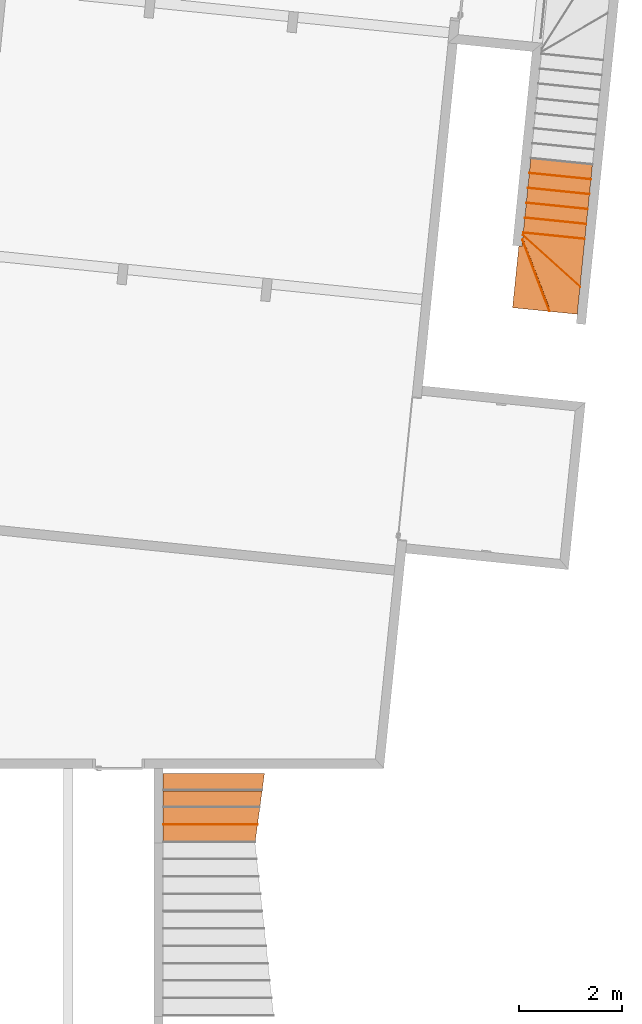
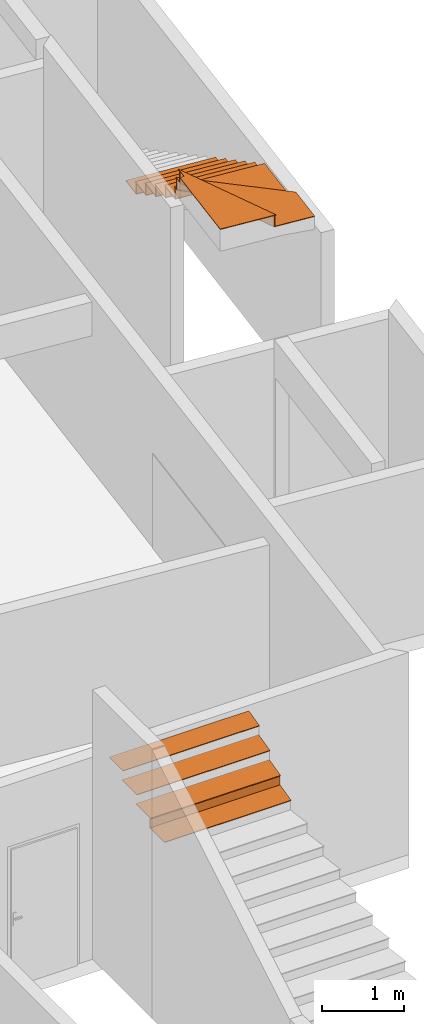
# One storey, part 40 of 41: 20 proxies, 2 elements without a shape of their own.
"""IFC2X3 building model written with IfcOpenShell, lengths in millimetres."""

from ifc_helpers import new_model, entity, si_unit, converted_unit, derived_unit, money_unit, direction, frame, origin_with_axes, place, context, subcontext, project, spatial, faceted_brep, material, type_object, element, aggregate, save


model = new_model("IFC2X3")

# Units and contexts
model_context = context("Model", 3, precision=0.01, world=origin_with_axes(), true_north=direction((0.0, 1.0)))
body_context = subcontext(model_context, "Body", "Model", "MODEL_VIEW")
ifc_project = project(units=[si_unit("LENGTHUNIT", "METRE", prefix="MILLI"), si_unit("AREAUNIT", "SQUARE_METRE"), si_unit("VOLUMEUNIT", "CUBIC_METRE"), converted_unit("PLANEANGLEUNIT", "DEGREE", entity("IfcPlaneAngleMeasure", 0.0174532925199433), si_unit("PLANEANGLEUNIT", "RADIAN"), dimensions=[0, 0, 0, 0, 0, 0, 0]), money_unit("USD"), converted_unit("TIMEUNIT", "Year", entity("IfcTimeMeasure", 31557600.0), si_unit("TIMEUNIT", "SECOND"), dimensions=[0, 0, 1, 0, 0, 0, 0]), si_unit("MASSUNIT", "GRAM", prefix="KILO"), si_unit("THERMODYNAMICTEMPERATUREUNIT", "DEGREE_CELSIUS"), si_unit("LUMINOUSINTENSITYUNIT", "LUMEN"), si_unit("ENERGYUNIT", "JOULE", prefix="MEGA"), derived_unit("THERMALCONDUCTANCEUNIT", [(si_unit("POWERUNIT", "WATT"), 1), (si_unit("LENGTHUNIT", "METRE"), -1), (si_unit("THERMODYNAMICTEMPERATUREUNIT", "KELVIN"), -1)]), derived_unit("SPECIFICHEATCAPACITYUNIT", [(si_unit("ENERGYUNIT", "JOULE"), 1), (si_unit("MASSUNIT", "GRAM", prefix="KILO"), -1), (si_unit("THERMODYNAMICTEMPERATUREUNIT", "KELVIN"), -1)]), derived_unit("MASSDENSITYUNIT", [(si_unit("MASSUNIT", "GRAM", prefix="KILO"), 1), (si_unit("VOLUMEUNIT", "CUBIC_METRE"), -1)])], contexts=[model_context])

# Site, building, storey
site_placement = place(None, origin_with_axes())
site = spatial("IfcSite", under=ifc_project, at=site_placement, Name="Site", CompositionType="ELEMENT")
building_placement = place(site_placement, origin_with_axes())
building = spatial("IfcBuilding", under=site, at=building_placement, Name="Bâtiment", CompositionType="ELEMENT")
storey_placement = place(building_placement, origin_with_axes())
storey = spatial("IfcBuildingStorey", under=building, at=storey_placement, Name="sousol", CompositionType="ELEMENT", Elevation=0.0)

# Stair, proxies
stair_1_placement = place(storey_placement, frame((2249189.521225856, -619471.9295065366, 0.0), z_axis=(0.0, 0.0, 1.0), x_axis=(0.9948759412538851, -0.1011032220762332, 0.0)))
stair_1 = element("IfcStair", 1, at=stair_1_placement, inside=storey, Name="ESC-014", ShapeType="NOTDEFINED")
ifc_material = material(Name="Lame d'air 275581351")
building_element_proxy_type = type_object("IfcBuildingElementProxyType", Name="IfcBuildingElementProxy", PredefinedType="NOTDEFINED")
proxy_1_placement = place(stair_1_placement, frame((457.016809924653, -1677.727353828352, 1990.0), z_axis=(0.0, 0.0, 1.0), x_axis=(-1.0, 0.0, 0.0)))
proxy_1 = element("IfcBuildingElementProxy", 2, at=proxy_1_placement, type_object=building_element_proxy_type, material=ifc_material, Name="C-MARCHE-235", context=body_context, shape_type="Brep", body=[
    faceted_brep([(334.9999999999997, 15.00000000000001, 0.0), (334.9999999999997, 25.00000000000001, 0.0), (-865.0000000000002, 24.99999999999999, 0.0), (-865.0000000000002, 14.99999999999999, 0.0), (334.9999999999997, 15.00000000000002, -156.6666666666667), (334.9999999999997, 25.00000000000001, -156.6666666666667), (-865.0000000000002, 25.0, -156.6666666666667), (-865.0000000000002, 15.0, -156.6666666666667)], [[[0, 1, 2, 3]], [[0, 4, 5, 1]], [[1, 5, 6, 2]], [[3, 2, 6, 7]], [[4, 0, 3, 7]], [[5, 4, 7, 6]]]),
])
proxy_2_placement = place(stair_1_placement, frame((457.016809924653, -2257.227331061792, 2323.333333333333), z_axis=(0.0, 0.0, 1.0), x_axis=(-1.0, 0.0, 0.0)))
proxy_2 = element("IfcBuildingElementProxy", 3, at=proxy_2_placement, type_object=building_element_proxy_type, material=ifc_material, Name="C-MARCHE-237", context=body_context, shape_type="Brep", body=[
    faceted_brep([(334.9999999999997, 15.00000000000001, 0.0), (334.9999999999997, 25.00000000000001, 0.0), (-865.0000000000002, 24.99999999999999, 0.0), (-865.0000000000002, 14.99999999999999, 0.0), (334.9999999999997, 15.00000000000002, -156.6666666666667), (334.9999999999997, 25.00000000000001, -156.6666666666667), (-865.0000000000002, 25.0, -156.6666666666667), (-865.0000000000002, 15.0, -156.6666666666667)], [[[0, 1, 2, 3]], [[0, 4, 5, 1]], [[1, 5, 6, 2]], [[3, 2, 6, 7]], [[4, 0, 3, 7]], [[5, 4, 7, 6]]]),
])
proxy_3_placement = place(stair_1_placement, frame((457.0168099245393, -1967.477342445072, 2156.666666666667), z_axis=(0.0, 0.0, 1.0), x_axis=(-1.0, 0.0, 0.0)))
proxy_3 = element("IfcBuildingElementProxy", 4, at=proxy_3_placement, type_object=building_element_proxy_type, material=ifc_material, Name="C-MARCHE-236", context=body_context, shape_type="Brep", body=[
    faceted_brep([(334.9999999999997, 15.00000000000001, 0.0), (334.9999999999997, 25.00000000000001, 0.0), (-865.0000000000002, 24.99999999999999, 0.0), (-865.0000000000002, 14.99999999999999, 0.0), (334.9999999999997, 15.00000000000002, -156.6666666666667), (334.9999999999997, 25.00000000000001, -156.6666666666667), (-865.0000000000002, 25.0, -156.6666666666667), (-865.0000000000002, 15.0, -156.6666666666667)], [[[0, 1, 2, 3]], [[0, 4, 5, 1]], [[1, 5, 6, 2]], [[3, 2, 6, 7]], [[4, 0, 3, 7]], [[5, 4, 7, 6]]]),
])
proxy_4_placement = place(stair_1_placement, frame((457.016809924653, -2546.977319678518, 2490.0), z_axis=(0.0, 0.0, 1.0), x_axis=(-1.0, 0.0, 0.0)))
proxy_4 = element("IfcBuildingElementProxy", 5, at=proxy_4_placement, type_object=building_element_proxy_type, material=ifc_material, Name="C-MARCHE-238", context=body_context, shape_type="Brep", body=[
    faceted_brep([(334.9999999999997, 15.00000000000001, 0.0), (334.9999999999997, 25.00000000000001, 0.0), (-865.0000000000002, 24.99999999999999, 0.0), (-865.0000000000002, 14.99999999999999, 0.0), (334.9999999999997, 15.00000000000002, -156.6666666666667), (334.9999999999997, 25.00000000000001, -156.6666666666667), (-865.0000000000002, 25.0, -156.6666666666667), (-865.0000000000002, 15.0, -156.6666666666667)], [[[0, 1, 2, 3]], [[0, 4, 5, 1]], [[1, 5, 6, 2]], [[3, 2, 6, 7]], [[4, 0, 3, 7]], [[5, 4, 7, 6]]]),
])
proxy_5_placement = place(stair_1_placement, frame((457.016809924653, -2836.727308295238, 2656.666666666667), z_axis=(0.0, 0.0, 1.0), x_axis=(-1.0, 0.0, 0.0)))
proxy_5 = element("IfcBuildingElementProxy", 6, at=proxy_5_placement, type_object=building_element_proxy_type, material=ifc_material, Name="C-MARCHE-239", context=body_context, shape_type="Brep", body=[
    faceted_brep([(334.9999999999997, 15.00000000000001, 0.0), (334.9999999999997, 25.00000000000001, 0.0), (-865.0000000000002, 24.99999999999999, 0.0), (-865.0000000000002, 14.99999999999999, 0.0), (334.9999999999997, 15.00000000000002, -156.6666666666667), (334.9999999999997, 25.00000000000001, -156.6666666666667), (-865.0000000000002, 25.0, -156.6666666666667), (-865.0000000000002, 15.0, -156.6666666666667)], [[[0, 1, 2, 3]], [[0, 4, 5, 1]], [[1, 5, 6, 2]], [[3, 2, 6, 7]], [[4, 0, 3, 7]], [[5, 4, 7, 6]]]),
])
proxy_6_placement = place(stair_1_placement, frame((456.9821929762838, -3126.477131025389, 2823.333333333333), z_axis=(0.0, 0.0, 1.0), x_axis=(-0.8049352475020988, 0.5933626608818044, 0.0)))
proxy_6 = element("IfcBuildingElementProxy", 7, at=proxy_6_placement, type_object=building_element_proxy_type, material=ifc_material, Name="C-MARCHE-240", context=body_context, shape_type="Brep", body=[
    faceted_brep([(405.0822027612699, 15.00000000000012, 0.0), (397.7106450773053, 25.00000000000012, 0.0), (-1093.092501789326, 24.99999999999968, 0.0), (-1085.720944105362, 14.99999999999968, 0.0), (405.0822027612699, 15.00000000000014, -156.6666666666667), (397.7106450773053, 25.00000000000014, -156.6666666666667), (-1093.092501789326, 24.99999999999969, -156.6666666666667), (-1085.720944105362, 14.99999999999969, -156.6666666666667)], [[[0, 1, 2, 3]], [[0, 4, 5, 1]], [[1, 5, 6, 2]], [[3, 2, 6, 7]], [[4, 0, 3, 7]], [[5, 4, 7, 6]]]),
])
proxy_7_placement = place(stair_1_placement, frame((335.6427608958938, -3379.709661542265, 2990.0), z_axis=(0.0, 0.0, 1.0), x_axis=(-0.4475218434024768, 0.8942730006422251, 0.0)))
proxy_7 = element("IfcBuildingElementProxy", 8, at=proxy_7_placement, type_object=building_element_proxy_type, material=ifc_material, Name="C-MARCHE-241", context=body_context, shape_type="Brep", body=[
    faceted_brep([(447.3789579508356, 15.00000000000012, 0.0), (427.3961791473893, 25.00000000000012, 0.0), (-1040.804764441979, 24.99999999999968, 0.0), (-1045.809073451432, 14.99999999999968, 0.0), (447.3789579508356, 15.00000000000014, -156.6666666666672), (427.3961791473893, 25.00000000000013, -156.6666666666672), (-1040.804764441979, 24.99999999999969, -156.6666666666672), (-1045.809073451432, 14.99999999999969, -156.6666666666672)], [[[0, 1, 2, 3]], [[0, 4, 5, 1]], [[1, 5, 6, 2]], [[3, 2, 6, 7]], [[4, 0, 3, 7]], [[5, 4, 7, 6]]]),
])
proxy_8_placement = place(stair_1_placement, frame((457.016809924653, -1387.977365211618, 1833.333333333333), z_axis=(0.0, 0.0, 1.0), x_axis=(-1.0, 0.0, 0.0)))
proxy_8 = element("IfcBuildingElementProxy", 9, at=proxy_8_placement, type_object=building_element_proxy_type, material=ifc_material, Name="MARCHE-234", context=body_context, shape_type="Brep", body=[
    faceted_brep([(-865.0, 0.0, -10.0), (334.9999999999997, 0.0, -10.0), (334.9999999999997, 0.0, 0.0), (-865.0, 0.0, 0.0), (-865.0000000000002, 314.7499886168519, -10.0), (334.9999999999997, 314.7499886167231, -10.0), (334.9999999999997, 314.7499886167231, 0.0), (-865.0000000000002, 314.7499886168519, 0.0)], [[[0, 1, 2, 3]], [[0, 4, 5, 1]], [[1, 5, 6, 2]], [[3, 2, 6, 7]], [[4, 0, 3, 7]], [[5, 4, 7, 6]]]),
])
proxy_9_placement = place(stair_1_placement, frame((457.016809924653, -1677.727353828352, 2000.0), z_axis=(0.0, 0.0, 1.0), x_axis=(-1.0, 0.0, 0.0)))
proxy_9 = element("IfcBuildingElementProxy", 10, at=proxy_9_placement, type_object=building_element_proxy_type, material=ifc_material, Name="MARCHE-235", context=body_context, shape_type="Brep", body=[
    faceted_brep([(-865.0, 0.0, -10.0), (334.9999999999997, 0.0, -10.0), (334.9999999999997, 0.0, 0.0), (-865.0, 0.0, 0.0), (-865.0000000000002, 314.7499886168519, -10.0), (334.9999999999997, 314.7499886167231, -10.0), (334.9999999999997, 314.7499886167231, 0.0), (-865.0000000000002, 314.7499886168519, 0.0)], [[[0, 1, 2, 3]], [[0, 4, 5, 1]], [[1, 5, 6, 2]], [[3, 2, 6, 7]], [[4, 0, 3, 7]], [[5, 4, 7, 6]]]),
])
proxy_10_placement = place(stair_1_placement, frame((457.0168099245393, -1967.477342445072, 2166.666666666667), z_axis=(0.0, 0.0, 1.0), x_axis=(-1.0, 0.0, 0.0)))
proxy_10 = element("IfcBuildingElementProxy", 11, at=proxy_10_placement, type_object=building_element_proxy_type, material=ifc_material, Name="MARCHE-236", context=body_context, shape_type="Brep", body=[
    faceted_brep([(-865.0, 0.0, -10.0), (334.9999999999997, 0.0, -10.0), (334.9999999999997, 0.0, 0.0), (-865.0, 0.0, 0.0), (-865.0000000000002, 314.7499886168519, -10.0), (334.9999999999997, 314.7499886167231, -10.0), (334.9999999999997, 314.7499886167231, 0.0), (-865.0000000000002, 314.7499886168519, 0.0)], [[[0, 1, 2, 3]], [[0, 4, 5, 1]], [[1, 5, 6, 2]], [[3, 2, 6, 7]], [[4, 0, 3, 7]], [[5, 4, 7, 6]]]),
])
proxy_11_placement = place(stair_1_placement, frame((457.016809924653, -2257.227331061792, 2333.333333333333), z_axis=(0.0, 0.0, 1.0), x_axis=(-1.0, 0.0, 0.0)))
proxy_11 = element("IfcBuildingElementProxy", 12, at=proxy_11_placement, type_object=building_element_proxy_type, material=ifc_material, Name="MARCHE-237", context=body_context, shape_type="Brep", body=[
    faceted_brep([(-865.0, 0.0, -10.0), (334.9999999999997, 0.0, -10.0), (334.9999999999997, 0.0, 0.0), (-865.0, 0.0, 0.0), (-865.0000000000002, 314.7499886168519, -10.0), (334.9999999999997, 314.7499886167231, -10.0), (334.9999999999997, 314.7499886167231, 0.0), (-865.0000000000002, 314.7499886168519, 0.0)], [[[0, 1, 2, 3]], [[0, 4, 5, 1]], [[1, 5, 6, 2]], [[3, 2, 6, 7]], [[4, 0, 3, 7]], [[5, 4, 7, 6]]]),
])
proxy_12_placement = place(stair_1_placement, frame((457.016809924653, -2836.727308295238, 2666.666666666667), z_axis=(0.0, 0.0, 1.0), x_axis=(-1.0, 0.0, 0.0)))
proxy_12 = element("IfcBuildingElementProxy", 13, at=proxy_12_placement, type_object=building_element_proxy_type, material=ifc_material, Name="MARCHE-239", context=body_context, shape_type="Brep", body=[
    faceted_brep([(-865.0000000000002, 0.0, -10.0), (334.9999999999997, 0.0, -10.0), (334.9999999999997, 0.0, 0.0), (-865.0000000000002, 0.0, 0.0), (-865.0000000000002, 958.4734831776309, -10.0), (334.9999999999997, 73.88655662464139, -10.0), (334.9999999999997, 73.88655662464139, 0.0), (-865.0000000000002, 958.4734831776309, 0.0)], [[[0, 1, 2, 3]], [[0, 4, 5, 1]], [[1, 5, 6, 2]], [[3, 2, 6, 7]], [[4, 0, 3, 7]], [[5, 4, 7, 6]]]),
])
proxy_13_placement = place(stair_1_placement, frame((456.9821929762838, -3126.477131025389, 2833.333333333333), z_axis=(0.0, 0.0, 1.0), x_axis=(-0.8049352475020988, 0.5933626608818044, 0.0)))
proxy_13 = element("IfcBuildingElementProxy", 14, at=proxy_13_placement, type_object=building_element_proxy_type, material=ifc_material, Name="MARCHE-240", context=body_context, shape_type="Brep", body=[
    faceted_brep([(-1074.663607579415, 0.0, -10.0), (416.1395392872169, 0.0, -10.0), (416.1395392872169, 0.0, 0.0), (-1074.663607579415, 0.0, 0.0), (-1405.474516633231, 448.7666287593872, -10.0), (-968.4365302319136, 770.9317014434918, -10.0), (339.5166143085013, 103.9440078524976, -10.0), (339.5166143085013, 103.9440078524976, 0.0), (-968.4365302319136, 770.9317014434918, 0.0), (-1405.474516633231, 448.7666287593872, 0.0)], [[[0, 1, 2, 3]], [[0, 4, 5, 6, 1]], [[1, 6, 7, 2]], [[3, 2, 7, 8, 9]], [[4, 0, 3, 9]], [[5, 4, 9, 8]], [[6, 5, 8, 7]]]),
])
proxy_14_placement = place(stair_1_placement, frame((335.6427608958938, -3379.709661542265, 3000.0), z_axis=(0.0, 0.0, 1.0), x_axis=(-0.4475218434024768, 0.8942730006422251, 0.0)))
proxy_14 = element("IfcBuildingElementProxy", 15, at=proxy_14_placement, type_object=building_element_proxy_type, material=ifc_material, Name="MARCHE-241", context=body_context, shape_type="Brep", body=[
    faceted_brep([(-1053.315536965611, 0.0, -10.0), (477.3531261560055, 0.0, -10.0), (477.3531261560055, 0.0, 0.0), (-1053.315536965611, 0.0, 0.0), (-720.7589855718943, 664.5404006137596, -10.0), (352.3686151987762, 127.5141885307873, -10.0), (326.3679553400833, 75.55764506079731, -10.0), (326.3679553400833, 75.55764506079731, 0.0), (352.3686151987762, 127.5141885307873, 0.0), (-720.7589855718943, 664.5404006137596, 0.0)], [[[0, 1, 2, 3]], [[0, 4, 5, 6, 1]], [[1, 6, 7, 2]], [[3, 2, 7, 8, 9]], [[4, 0, 3, 9]], [[5, 4, 9, 8]], [[6, 5, 8, 7]]]),
])
proxy_15_placement = place(stair_1_placement, frame((457.016809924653, -2546.977319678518, 2500.0), z_axis=(0.0, 0.0, 1.0), x_axis=(-1.0, 0.0, 0.0)))
proxy_15 = element("IfcBuildingElementProxy", 16, at=proxy_15_placement, type_object=building_element_proxy_type, material=ifc_material, Name="MARCHE-238", context=body_context, shape_type="Brep", body=[
    faceted_brep([(-865.0, 0.0, -10.0), (334.9999999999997, 0.0, -10.0), (334.9999999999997, 0.0, 0.0), (-865.0, 0.0, 0.0), (-865.0000000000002, 314.7499886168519, -10.0), (334.9999999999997, 314.7499886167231, -10.0), (334.9999999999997, 314.7499886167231, 0.0), (-865.0000000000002, 314.7499886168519, 0.0)], [[[0, 1, 2, 3]], [[0, 4, 5, 1]], [[1, 5, 6, 2]], [[3, 2, 6, 7]], [[4, 0, 3, 7]], [[5, 4, 7, 6]]]),
])
aggregate(stair_1, [proxy_1, proxy_2, proxy_3, proxy_4, proxy_5, proxy_6, proxy_7, proxy_8, proxy_9, proxy_10, proxy_11, proxy_12, proxy_13, proxy_14, proxy_15])

stair_2_placement = place(storey_placement, frame((2242056.657618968, -637489.6648349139, 899.9999999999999), z_axis=(0.0, 0.0, 1.0), x_axis=(1.0, 0.0, 0.0)))
stair_2 = element("IfcStair", 17, at=stair_2_placement, inside=storey, Name="ESC-021", ShapeType="NOTDEFINED")
proxy_16_placement = place(stair_2_placement, frame((700.0000000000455, 3692.857142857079, 1790.0), z_axis=(0.0, 0.0, 1.0), x_axis=(1.0, 0.0, 0.0)))
proxy_16 = element("IfcBuildingElementProxy", 18, at=proxy_16_placement, type_object=building_element_proxy_type, material=ifc_material, Name="C-MARCHE-361", context=body_context, shape_type="Brep", body=[
    faceted_brep([(1124.060724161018, 14.99999999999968, 0.0), (1125.416006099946, 24.99999999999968, 0.0), (-699.9999999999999, 24.99999999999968, 0.0), (-699.9999999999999, 14.99999999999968, 0.0), (1124.060724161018, 14.99999999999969, -139.9999999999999), (1125.416006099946, 24.99999999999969, -139.9999999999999), (-699.9999999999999, 24.99999999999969, -139.9999999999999), (-699.9999999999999, 14.99999999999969, -139.9999999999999)], [[[0, 1, 2, 3]], [[0, 4, 5, 1]], [[1, 5, 6, 2]], [[3, 2, 6, 7]], [[4, 0, 3, 7]], [[5, 4, 7, 6]]]),
])
proxy_17_placement = place(stair_2_placement, frame((700.0000000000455, 3357.14285714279, 1650.0), z_axis=(0.0, 0.0, 1.0), x_axis=(1.0, 0.0, 0.0)))
proxy_17 = element("IfcBuildingElementProxy", 19, at=proxy_17_placement, type_object=building_element_proxy_type, material=ifc_material, Name="MARCHE-360", context=body_context, shape_type="Brep", body=[
    faceted_brep([(-700.000000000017, 360.7142832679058, -10.0), (-699.9999999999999, 0.0, -10.0), (-699.9999999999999, 0.0, 0.0), (-700.000000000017, 360.7142832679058, 0.0), (1125.416006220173, 360.7142832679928, -10.0), (1076.529044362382, 0.0, -10.0), (1076.529044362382, 0.0, 0.0), (1125.416006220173, 360.7142832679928, 0.0)], [[[0, 1, 2, 3]], [[0, 4, 5, 1]], [[1, 5, 6, 2]], [[3, 2, 6, 7]], [[4, 0, 3, 7]], [[5, 4, 7, 6]]]),
])
proxy_18_placement = place(stair_2_placement, frame((700.0000000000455, 3692.857142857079, 1800.0), z_axis=(0.0, 0.0, 1.0), x_axis=(1.0, 0.0, 0.0)))
proxy_18 = element("IfcBuildingElementProxy", 20, at=proxy_18_placement, type_object=building_element_proxy_type, material=ifc_material, Name="MARCHE-361", context=body_context, shape_type="Brep", body=[
    faceted_brep([(-699.9999999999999, 2.306626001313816e-07, -10.0), (1122.027801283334, 2.265867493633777e-07, -10.0), (1122.027801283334, 2.265867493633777e-07, 0.0), (-699.9999999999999, 2.306626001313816e-07, 0.0), (-700.0, 360.7142996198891, -10.0), (1170.914758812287, 360.7142997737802, -10.0), (1170.914758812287, 360.7142997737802, 0.0), (-700.0, 360.7142996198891, 0.0)], [[[0, 1, 2, 3]], [[0, 4, 5, 1]], [[1, 5, 6, 2]], [[3, 2, 6, 7]], [[4, 0, 3, 7]], [[5, 4, 7, 6]]]),
])
proxy_19_placement = place(stair_2_placement, frame((700.0000000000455, 4028.571428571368, 1950.0), z_axis=(0.0, 0.0, 1.0), x_axis=(1.0, 0.0, 0.0)))
proxy_19 = element("IfcBuildingElementProxy", 21, at=proxy_19_placement, type_object=building_element_proxy_type, material=ifc_material, Name="MARCHE-362", context=body_context, shape_type="Brep", body=[
    faceted_brep([(-700.0, 0.0, -10.0), (1167.526552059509, 0.0, -10.0), (1167.526552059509, 0.0, 0.0), (-700.0, 0.0, 0.0), (-699.9999999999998, 360.7142801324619, -10.0), (1216.413506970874, 360.7142802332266, -10.0), (1216.413506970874, 360.7142802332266, 0.0), (-699.9999999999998, 360.7142801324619, 0.0)], [[[0, 1, 2, 3]], [[0, 4, 5, 1]], [[1, 5, 6, 2]], [[3, 2, 6, 7]], [[4, 0, 3, 7]], [[5, 4, 7, 6]]]),
])
proxy_20_placement = place(stair_2_placement, frame((700.0000000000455, 4364.285714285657, 2100.0), z_axis=(0.0, 0.0, 1.0), x_axis=(1.0, 0.0, 0.0)))
proxy_20 = element("IfcBuildingElementProxy", 22, at=proxy_20_placement, type_object=building_element_proxy_type, material=ifc_material, Name="MARCHE-363", context=body_context, shape_type="Brep", body=[
    faceted_brep([(-700.0, 0.0, -10.0), (1213.025302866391, 0.0, -10.0), (1213.025302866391, 0.0, 0.0), (-700.0, 0.0, 0.0), (-699.9999999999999, 335.7142857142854, -10.0), (700.0000000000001, 335.7142857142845, -10.0), (1258.524053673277, 335.7142857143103, -10.0), (1258.524053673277, 335.7142857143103, 0.0), (700.0000000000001, 335.7142857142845, 0.0), (-699.9999999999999, 335.7142857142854, 0.0)], [[[0, 1, 2, 3]], [[0, 4, 5, 6, 1]], [[1, 6, 7, 2]], [[3, 2, 7, 8, 9]], [[4, 0, 3, 9]], [[5, 4, 9, 8]], [[6, 5, 8, 7]]]),
])
aggregate(stair_2, [proxy_16, proxy_17, proxy_18, proxy_19, proxy_20])

save(model, "model.ifc")
